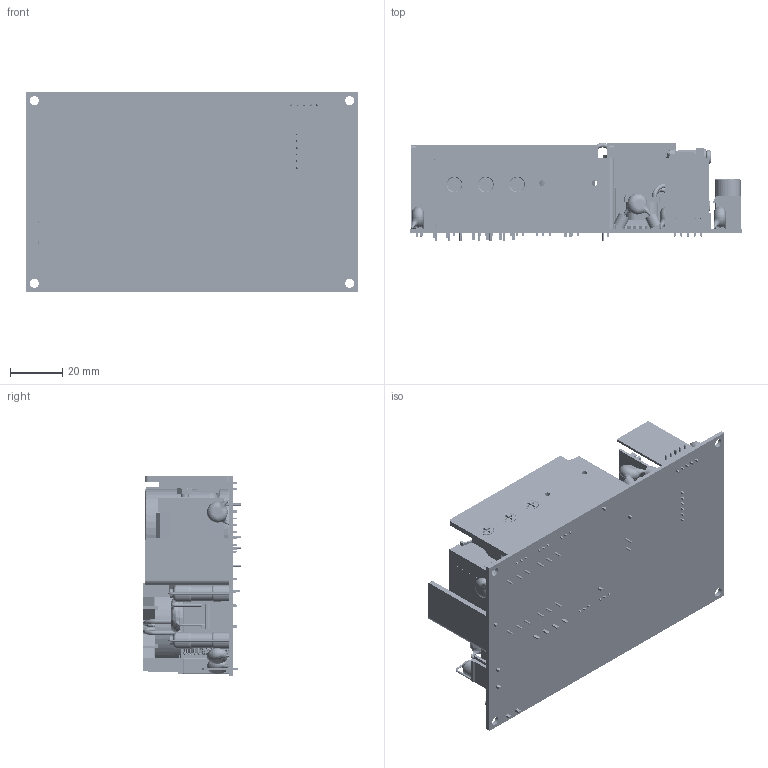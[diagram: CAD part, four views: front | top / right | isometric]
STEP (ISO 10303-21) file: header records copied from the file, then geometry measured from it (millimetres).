
FILE_DESCRIPTION (( 'STEP AP214' ), '1' );
FILE_NAME ('ECH450PS12-24 (CD 27-JUL-2023).STEP', '2023-07-27T17:35:21', ( '' ), ( '' ), 'SwSTEP 2.0', 'SolidWorks 2020', '' );
FILE_SCHEMA (( 'AUTOMOTIVE_DESIGN' ));
Length unit declared in the file: metre
Products named in the file (48): 3340030201_M3NUT; 10X19_2; ECH450PS12-24 (CD 27-JUL-2023); ECH450_Q16D3_ASM; LDPIN01; GLASS_TYPE; M3_THREADED_STAENDOFFS; L301; ECH450_BDQ3Q5_ASM; C21; L2; T1; 32_5X28X30_5; PCB1; ECH450_PCB; CAP_30X32MM; C3; 21014-0030_FG; HEADER_X6PIN; ECH450_BDQ3Q5; ATX_10PIN; JST_B3P2_VH; P3X6; 85D7BU8061_BD1; L201; 3320030082_M3X8; C19; PCB3; 8X16; 6_3X6; 86K18N60M2_Q2Q3; ECH450_Q16D3; 58C77-1025_Y1_BEADCORE; TEMP; 5_2X10_5_RIGHT_ANGLE; T201; 11X6_5X5; 58C77-1025_Y1; PCB2; 830A6069HZ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
Assembly tree (74 placements, depth 3):
  ECH450PS12-24 (CD 27-JUL-2023)
    ECH450_PCB
    ECH450_Q16D3_ASM
      ECH450_Q16D3
      LDPIN01  x2
    ECH450_BDQ3Q5_ASM
      ECH450_BDQ3Q5
      LDPIN01  x2
    JST_B3P2_VH
    21014-0030_FG
    CAP_30X32MM
    85D7BU8061_BD1
    86K18N60M2_Q2Q3  x5
    3320030082_M3X8  x6
    3340030201_M3NUT  x7
    830A6069HZ
    58C77-1025_Y1_BEADCORE
    58C77-1025_Y1  x5
    C21  x2
    C3
    C19
    11X6_5X5
    L2
    RIGHT_ANGLE
    16X9X9
    GLASS_TYPE  x2
    32_5X28X30_5
    R3140104045_CN2
    10X19_2  x3
    8X16
    TEMP
    PCB1
    HS-SR
    P3X6  x2
    P2_6X4
    PCB2
    HEADER_R36BA37_001
    L301
    C30
    PCB3
    5_2X10_5_RIGHT_ANGLE
    HEADER_X6PIN
    3PIN_PITCH2_0
    L201
    T201
    ATX_10PIN
    T1
    6_3X6
    M3_THREADED_STAENDOFFS
Bounding box: 127 x 37.6 x 76.2 mm (x, y, z)
Volume: 110146.7 mm3; surface area: 100008.2 mm2
Topology: 89 solids, 91 shells, 3656 faces, 8732 edges, 5328 vertices
Faces by surface type: plane 1776, bspline 1285, cylinder 433, cone 146, torus 16
Entity records: 206521 total; most frequent: CARTESIAN_POINT 141850, ORIENTED_EDGE 14132, DIRECTION 11278, EDGE_CURVE 7069, VERTEX_POINT 4298, AXIS2_PLACEMENT_3D 3836, VECTOR 3606, LINE 3606
